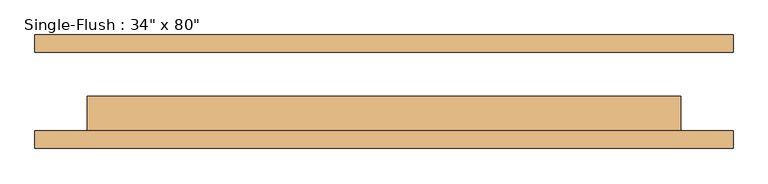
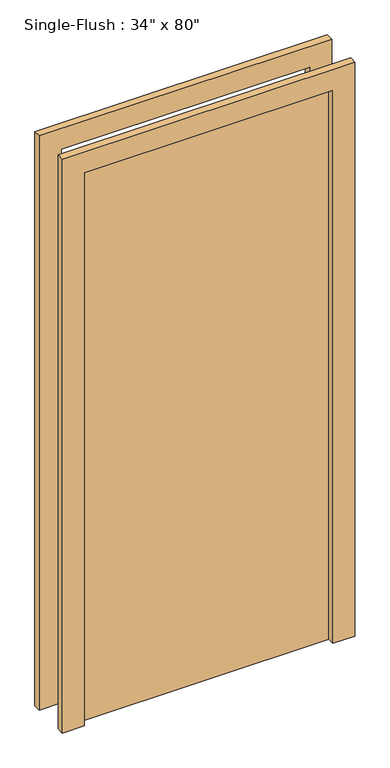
"""IFC4 building model written with IfcOpenShell, lengths in millimetres: door geometry."""

from ifc_helpers import new_model, si_unit, frame, origin, origin_with_axes, place, context, project, spatial, polyline, outline, extrude, source, transform, mapped, element, save


def door_825b8444(model_context):
    return source(origin(), model_context, "Body", "SweptSolid", [
        extrude(outline(polyline([(2108.2, -508.0), (0.0, -508.0), (0.0, -431.8), (2032.0, -431.8), (2032.0, 431.8), (0.0, 431.8), (0.0, 508.0), (2108.2, 508.0), (2108.2, -508.0)])), frame((0.0, -82.55, 0.0), z_axis=(0.0, 1.0, 0.0), x_axis=(0.0, 0.0, 1.0)), (0.0, 0.0, 1.0), 25.4),
        extrude(outline(polyline([(2108.2, 508.0), (2108.2, -508.0), (0.0, -508.0), (0.0, -431.8), (2032.0, -431.8), (2032.0, 431.8), (0.0, 431.8), (0.0, 508.0), (2108.2, 508.0)])), frame((0.0, 57.15, 0.0), z_axis=(0.0, 1.0, 0.0), x_axis=(0.0, 0.0, 1.0)), (0.0, 0.0, 1.0), 25.4),
        extrude(outline(polyline([(431.8, -6.35), (431.8, -57.15), (-431.8, -57.15), (-431.8, -6.35), (431.8, -6.35)])), origin_with_axes(), (0.0, 0.0, 1.0), 2032.0),
    ])


if __name__ == "__main__":
    model = new_model("IFC4")
    model_context = context("Model", 3, world=origin())
    ifc_project = project(units=[si_unit("LENGTHUNIT", "METRE", prefix="MILLI")], contexts=[model_context])
    site = spatial("IfcSite", under=ifc_project)
    building = spatial("IfcBuilding", under=site)
    placement = place(None, origin())
    door_shape = door_825b8444(model_context)
    element("IfcDoor", 1, ObjectType="Single-Flush : 34\" x 80\"", at=placement, inside=building, context=model_context, shape_type="MappedRepresentation", body=[
        mapped(door_shape, transform((0.0, 0.0, 0.0), x_axis=(1.0, 0.0, 0.0), y_axis=(0.0, 1.0, 0.0), z_axis=(0.0, 0.0, 1.0))),
    ])
    save(model, "model.ifc")
